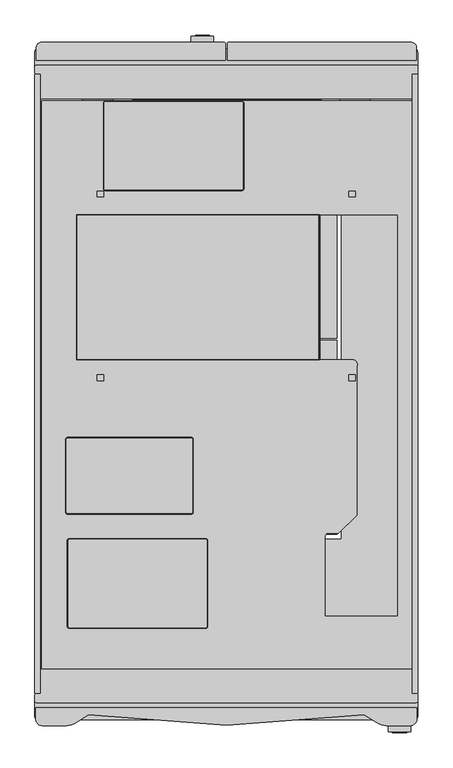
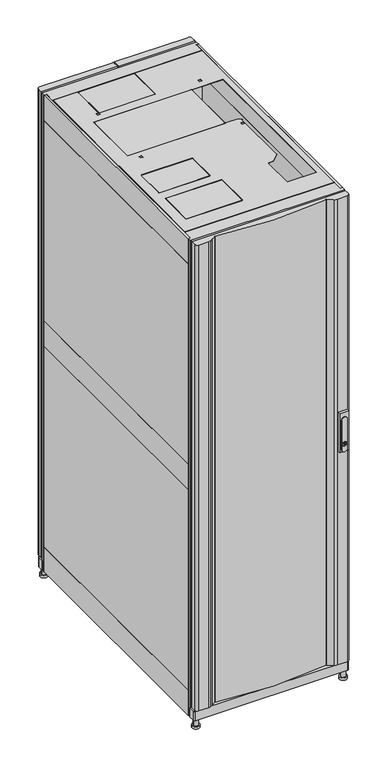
"""IFC4 building model written with IfcOpenShell, lengths in millimetres: proxy geometry, Modular_PDU_100kW_600_480_208V_MBP_w_XFMR_Schneider_Electric_BIM_Model : PDPM100G6F-M 100kVA Modular Power Distribution Unit, Isolation Transformer, 480-208V, 72 Pole, MBP, 1 Subfeed."""

from ifc_helpers import new_model, si_unit, point, frame, frame_2d, origin, place, context, project, spatial, polyline, circle_curve, trimmed, segment, composite_curve, outline, extrude, source, transform, mapped, element, save
from ifc_brep_helpers import plane_surface, cylinder_surface, revolved_surface, advanced_brep


def electrical_equipment_63daee8f(model_context):
    return source(origin(), model_context, "Body", "SolidModel", [
        extrude(outline(composite_curve([segment(trimmed(circle_curve(frame_2d((964.9307811, -37.2036024)), 11.2467677), [point((964.9307811, -48.4503701))], [point((964.9307811, -25.9568348))], False, "CARTESIAN"), True, "CONTINUOUS"), segment(polyline([(964.9307811, -25.9568348), (1084.9307811, -25.9568348)]), True, "CONTINUOUS"), segment(trimmed(circle_curve(frame_2d((1084.9307811, -37.2036024)), 11.2467677), [point((1084.9307811, -25.9568348))], [point((1084.9307811, -48.4503701))], False, "CARTESIAN"), True, "CONTINUOUS"), segment(polyline([(1084.9307811, -48.4503701), (964.9307811, -48.4503701)]), True, "CONTINUOUS")], self_intersect=False), holes=[composite_curve([segment(trimmed(circle_curve(frame_2d((986.1512302, -37.182098)), 8.4681222), [point((989.1931123, -45.0850119))], [point((989.1931123, -29.2791842))], True, "CARTESIAN"), True, "CONTINUOUS"), segment(trimmed(circle_curve(frame_2d((986.1512302, -37.182098)), 8.4681222), [point((989.1931123, -29.2791842))], [point((983.109348, -29.2791842))], True, "CARTESIAN"), True, "CONTINUOUS"), segment(trimmed(circle_curve(frame_2d((986.1512302, -37.182098)), 8.4681222), [point((983.109348, -29.2791842))], [point((983.109348, -45.0850119))], True, "CARTESIAN"), True, "CONTINUOUS"), segment(trimmed(circle_curve(frame_2d((986.1512302, -37.182098)), 8.4681222), [point((983.109348, -45.0850119))], [point((989.1931123, -45.0850119))], True, "CARTESIAN"), True, "CONTINUOUS")], self_intersect=False)]), frame((0.0, 544.5, 0.0), z_axis=(0.0, 1.0, 0.0), x_axis=(0.0, 0.0, 1.0)), (0.0, 0.0, 1.0), 2.0),
        extrude(outline(composite_curve([segment(polyline([(988.2152956, -45.0850119), (984.0871648, -45.0850119)]), True, "CONTINUOUS"), segment(trimmed(circle_curve(frame_2d((986.1512302, -37.182098)), 8.1680116), [point((984.0871648, -45.0850119))], [point((984.0871648, -29.2791842))], False, "CARTESIAN"), True, "CONTINUOUS"), segment(polyline([(984.0871648, -29.2791842), (988.2152956, -29.2791842)]), True, "CONTINUOUS"), segment(trimmed(circle_curve(frame_2d((986.1512302, -37.182098)), 8.1680116), [point((988.2152956, -29.2791842))], [point((988.2152956, -45.0850119))], False, "CARTESIAN"), True, "CONTINUOUS")], self_intersect=False), holes=[polyline([(981.6145575, -37.182098), (993.3188729, -37.182098), (993.3188729, -34.7812128), (981.6145575, -34.7812128), (981.6145575, -37.182098)])]), frame((0.0, 544.5, 0.0), z_axis=(0.0, 1.0, 0.0), x_axis=(0.0, 0.0, 1.0)), (0.0, 0.0, 1.0), 2.0),
        extrude(outline(polyline([(-36.882098, 546.5), (-35.0812128, 546.5), (-35.0812128, 544.5), (-36.882098, 544.5), (-36.882098, 546.5)])), frame((0.0, 0.0, 981.9145575), z_axis=(0.0, 0.0, 1.0), x_axis=(1.0, 0.0, 0.0)), (0.0, 0.0, 1.0), 11.1043154),
        extrude(outline(polyline([(-55.0136709, 544.5), (-20.2236766, 544.5), (-20.2236766, 535.0), (-55.0136709, 535.0), (-55.0136709, 544.5)])), frame((0.0, 0.0, 955.0100058), z_axis=(0.0, 0.0, 1.0), x_axis=(1.0, 0.0, 0.0)), (0.0, 0.0, 1.0), 159.9999908),
        extrude(outline(polyline([(300.0, 484.7389449), (300.0, -484.3030002), (292.0, -484.3030002), (292.0, 484.7389449), (300.0, 484.7389449)])), frame((0.0, 0.0, 1888.946775), z_axis=(0.0, 0.0, 1.0), x_axis=(1.0, 0.0, 0.0)), (0.0, 0.0, 1.0), 101.9999981),
        extrude(outline(polyline([(483.8199605, 1065.7405589), (-483.7220002, 1065.7405589), (-483.7220002, 1887.9547749), (483.8199605, 1887.9547749), (483.8199605, 1065.7405589)]), holes=[polyline([(337.786, 1587.14523), (337.786, 1101.67323), (340.314, 1099.14523), (442.786, 1099.14523), (445.314, 1101.67323), (445.314, 1587.14523), (442.786, 1589.67323), (340.314, 1589.67323), (337.786, 1587.14523)])]), frame((292.0, 0.0, 0.0), z_axis=(1.0, 0.0, 0.0), x_axis=(0.0, 1.0, 0.0)), (0.0, 0.0, 1.0), 8.0),
        extrude(outline(polyline([(300.0, 484.7389449), (300.0, -484.3030002), (292.0, -484.3030002), (292.0, 484.7389449), (300.0, 484.7389449)])), frame((0.0, 0.0, 962.4467451), z_axis=(0.0, 0.0, 1.0), x_axis=(1.0, 0.0, 0.0)), (0.0, 0.0, 1.0), 102.0000055),
        extrude(outline(polyline([(483.8199605, 139.2405663), (-483.7220002, 139.2405663), (-483.7220002, 961.4547487), (483.8199605, 961.4547487), (483.8199605, 139.2405663)]), holes=[polyline([(337.786, 176.4632301), (340.314, 173.9352301), (442.786, 173.9352301), (445.314, 176.4632301), (445.314, 661.9352301), (442.786, 664.4632301), (340.314, 664.4632301), (337.786, 661.9352301), (337.786, 176.4632301)])]), frame((292.0, 0.0, 0.0), z_axis=(1.0, 0.0, 0.0), x_axis=(0.0, 1.0, 0.0)), (0.0, 0.0, 1.0), 8.0),
        extrude(outline(polyline([(300.0, 484.7389449), (300.0, -484.3030002), (292.0, -484.3030002), (292.0, 484.7389449), (300.0, 484.7389449)])), frame((0.0, 0.0, 35.9467301), z_axis=(0.0, 0.0, 1.0), x_axis=(1.0, 0.0, 0.0)), (0.0, 0.0, 1.0), 101.9999981),
        extrude(outline(composite_curve([segment(trimmed(circle_curve(frame_2d((965.0100104, 272.0137961)), 11.2467677), [point((965.0100104, 260.7670285))], [point((965.0100104, 283.2605638))], False, "CARTESIAN"), True, "CONTINUOUS"), segment(polyline([(965.0100104, 283.2605638), (1085.0100104, 283.2605638)]), True, "CONTINUOUS"), segment(trimmed(circle_curve(frame_2d((1085.0100104, 272.0137961)), 11.2467677), [point((1085.0100104, 283.2605638))], [point((1085.0100104, 260.7670285))], False, "CARTESIAN"), True, "CONTINUOUS"), segment(polyline([(1085.0100104, 260.7670285), (965.0100104, 260.7670285)]), True, "CONTINUOUS")], self_intersect=False), holes=[composite_curve([segment(trimmed(circle_curve(frame_2d((986.2304594, 272.0353005)), 8.4681222), [point((989.2723415, 264.1323867))], [point((989.2723415, 279.9382143))], True, "CARTESIAN"), True, "CONTINUOUS"), segment(trimmed(circle_curve(frame_2d((986.2304594, 272.0353005)), 8.4681222), [point((989.2723415, 279.9382143))], [point((983.1885772, 279.9382143))], True, "CARTESIAN"), True, "CONTINUOUS"), segment(trimmed(circle_curve(frame_2d((986.2304594, 272.0353005)), 8.4681222), [point((983.1885772, 279.9382143))], [point((983.1885772, 264.1323867))], True, "CARTESIAN"), True, "CONTINUOUS"), segment(trimmed(circle_curve(frame_2d((986.2304594, 272.0353005)), 8.4681222), [point((983.1885772, 264.1323867))], [point((989.2723415, 264.1323867))], True, "CARTESIAN"), True, "CONTINUOUS")], self_intersect=False)]), frame((0.0, -546.5, 0.0), z_axis=(0.0, 1.0, 0.0), x_axis=(0.0, 0.0, 1.0)), (0.0, 0.0, 1.0), 2.0),
        extrude(outline(composite_curve([segment(polyline([(988.2945248, 264.1323867), (984.166394, 264.1323867)]), True, "CONTINUOUS"), segment(trimmed(circle_curve(frame_2d((986.2304594, 272.0353005)), 8.1680116), [point((984.166394, 264.1323867))], [point((984.166394, 279.9382143))], False, "CARTESIAN"), True, "CONTINUOUS"), segment(polyline([(984.166394, 279.9382143), (988.2945248, 279.9382143)]), True, "CONTINUOUS"), segment(trimmed(circle_curve(frame_2d((986.2304594, 272.0353005)), 8.1680116), [point((988.2945248, 279.9382143))], [point((988.2945248, 264.1323867))], False, "CARTESIAN"), True, "CONTINUOUS")], self_intersect=False), holes=[polyline([(981.6937867, 272.0353005), (993.3981021, 272.0353005), (993.3981021, 274.4361857), (981.6937867, 274.4361857), (981.6937867, 272.0353005)])]), frame((0.0, -546.5, 0.0), z_axis=(0.0, 1.0, 0.0), x_axis=(0.0, 0.0, 1.0)), (0.0, 0.0, 1.0), 2.0),
        extrude(outline(polyline([(274.1361857, -546.5), (272.3353005, -546.5), (272.3353005, -544.5), (274.1361857, -544.5), (274.1361857, -546.5)])), frame((0.0, 0.0, 981.9937867), z_axis=(0.0, 0.0, 1.0), x_axis=(1.0, 0.0, 0.0)), (0.0, 0.0, 1.0), 11.1043154),
        extrude(outline(polyline([(289.0270248, -544.5), (254.2370304, -544.5), (254.2370304, -535.0), (289.0270248, -535.0), (289.0270248, -544.5)])), frame((0.0, 0.0, 955.0100058), z_axis=(0.0, 0.0, 1.0), x_axis=(1.0, 0.0, 0.0)), (0.0, 0.0, 1.0), 159.9999908),
        extrude(outline(polyline([(-292.0, 484.7389449), (-292.0, -484.3030002), (-300.0, -484.3030002), (-300.0, 484.7389449), (-292.0, 484.7389449)])), frame((0.0, 0.0, 1888.946775), z_axis=(0.0, 0.0, 1.0), x_axis=(1.0, 0.0, 0.0)), (0.0, 0.0, 1.0), 101.9999981),
        extrude(outline(polyline([(-292.0, 483.8199605), (-292.0, -483.7220002), (-300.0, -483.7220002), (-300.0, 483.8199605), (-292.0, 483.8199605)])), frame((0.0, 0.0, 1065.7405589), z_axis=(0.0, 0.0, 1.0), x_axis=(1.0, 0.0, 0.0)), (0.0, 0.0, 1.0), 822.214216),
        extrude(outline(polyline([(-292.0, 484.7389449), (-292.0, -484.3030002), (-300.0, -484.3030002), (-300.0, 484.7389449), (-292.0, 484.7389449)])), frame((0.0, 0.0, 962.4467451), z_axis=(0.0, 0.0, 1.0), x_axis=(1.0, 0.0, 0.0)), (0.0, 0.0, 1.0), 102.0000055),
        extrude(outline(polyline([(-292.0, 483.8199605), (-292.0, -483.7220002), (-300.0, -483.7220002), (-300.0, 483.8199605), (-292.0, 483.8199605)])), frame((0.0, 0.0, 139.2405663), z_axis=(0.0, 0.0, 1.0), x_axis=(1.0, 0.0, 0.0)), (0.0, 0.0, 1.0), 822.2141825),
        extrude(outline(polyline([(-292.0, 484.7389449), (-292.0, -484.3030002), (-300.0, -484.3030002), (-300.0, 484.7389449), (-292.0, 484.7389449)])), frame((0.0, 0.0, 35.9467301), z_axis=(0.0, 0.0, 1.0), x_axis=(1.0, 0.0, 0.0)), (0.0, 0.0, 1.0), 101.9999981),
        extrude(outline(composite_curve([segment(polyline([(295.0, -525.858838), (-295.0, -525.858838)]), True, "CONTINUOUS"), segment(trimmed(circle_curve(frame_2d((-295.0, -520.858838)), 5.0), [point((-295.0, -525.858838))], [point((-300.0, -520.858838))], False, "CARTESIAN"), True, "CONTINUOUS"), segment(polyline([(-300.0, -520.858838), (-300.0, -497.6556519), (300.0, -497.6556519), (300.0, -520.858838)]), True, "CONTINUOUS"), segment(trimmed(circle_curve(frame_2d((295.0, -520.858838)), 5.0), [point((300.0, -520.858838))], [point((295.0, -525.858838))], False, "CARTESIAN"), True, "CONTINUOUS")], self_intersect=False)), frame((0.0, 0.0, 36.3), z_axis=(0.0, 0.0, 1.0), x_axis=(1.0, 0.0, 0.0)), (0.0, 0.0, 1.0), 38.1),
        extrude(outline(composite_curve([segment(trimmed(circle_curve(frame_2d((295.0, 519.921338)), 5.0), [point((295.0, 524.921338))], [point((300.0, 519.921338))], False, "CARTESIAN"), True, "CONTINUOUS"), segment(polyline([(300.0, 519.921338), (300.0, 496.7181519), (-300.0, 496.7181519), (-300.0, 519.921338)]), True, "CONTINUOUS"), segment(trimmed(circle_curve(frame_2d((-295.0, 519.921338)), 5.0), [point((-300.0, 519.921338))], [point((-295.0, 524.921338))], False, "CARTESIAN"), True, "CONTINUOUS"), segment(polyline([(-295.0, 524.921338), (295.0, 524.921338)]), True, "CONTINUOUS")], self_intersect=False)), frame((0.0, 0.0, 36.3), z_axis=(0.0, 0.0, 1.0), x_axis=(1.0, 0.0, 0.0)), (0.0, 0.0, 1.0), 38.1),
        advanced_brep(
        [(295.0884724, 510.7969997, 40.0), (276.9884724, 510.7969997, 40.0), (276.9884724, 510.7969997, 10.0), (295.0884724, 510.7969997, 10.0), (271.9800276, 510.7969997, 10.0), (299.9800276, 510.7969997, 10.0), (271.9800276, 510.7969997, 0.0), (299.9800276, 510.7969997, 0.0)],
        [
            (0, 1, circle_curve(frame((286.0384724, 510.7969997, 40.0), z_axis=(0.0, 0.0, 1.0), x_axis=(-1.0, 0.0, 0.0)), 9.05)),
            (1, 0, circle_curve(frame((286.0384724, 510.7969997, 40.0), z_axis=(0.0, 0.0, 1.0), x_axis=(-1.0, 0.0, 0.0)), 9.05)),
            (1, 2),
            (2, 3, circle_curve(frame((286.0384724, 510.7969997, 10.0), z_axis=(0.0, 0.0, 1.0), x_axis=(-1.0, 0.0, 0.0)), 9.05)),
            (3, 0),
            (3, 2, circle_curve(frame((286.0384724, 510.7969997, 10.0), z_axis=(0.0, 0.0, 1.0), x_axis=(-1.0, 0.0, 0.0)), 9.05)),
            (4, 5, circle_curve(frame((285.9800276, 510.7969997, 10.0), z_axis=(0.0, 0.0, 1.0), x_axis=(1.0, 0.0, 0.0)), 14.0)),
            (5, 4, circle_curve(frame((285.9800276, 510.7969997, 10.0), z_axis=(0.0, 0.0, 1.0), x_axis=(1.0, 0.0, 0.0)), 14.0)),
            (6, 7, circle_curve(frame((285.9800276, 510.7969997, 0.0), z_axis=(0.0, 0.0, -1.0), x_axis=(1.0, 0.0, 0.0)), 14.0)),
            (7, 6, circle_curve(frame((285.9800276, 510.7969997, 0.0), z_axis=(0.0, 0.0, -1.0), x_axis=(1.0, 0.0, 0.0)), 14.0)),
            (4, 6),
            (7, 5),
        ],
        [
            plane_surface(frame((276.9884724, 510.7969997, 40.0), z_axis=(0.0, 0.0, 1.0), x_axis=(0.0, -1.0, 0.0))),
            cylinder_surface(frame((286.0384724, 510.7969997, 10.0), z_axis=(0.0, 0.0, 1.0), x_axis=(-1.0, 0.0, 0.0)), 9.05),
            plane_surface(frame((299.9800276, 510.7969997, 10.0), z_axis=(0.0, 0.0, 1.0), x_axis=(0.0, 1.0, 0.0))),
            plane_surface(frame((299.9800276, 510.7969997, 0.0), z_axis=(0.0, 0.0, -1.0), x_axis=(0.0, -1.0, 0.0))),
            cylinder_surface(frame((285.9800276, 510.7969997, 0.0), z_axis=(0.0, 0.0, 1.0), x_axis=(1.0, 0.0, 0.0)), 14.0),
        ],
        [
            (0, [[1, 2]]),
            (1, [[-2, 3, 4, 5]]),
            (1, [[-1, -5, 6, -3]]),
            (2, [[7, 8], [-4, -6]]),
            (3, [[9, 10]]),
            (4, [[-7, 11, -10, 12]]),
            (4, [[-8, -12, -9, -11]]),
        ],
    ),
        advanced_brep(
        [(295.0884724, -511.9030003, 40.0), (276.9884724, -511.9030003, 40.0), (276.9884724, -511.9030003, 10.0), (295.0884724, -511.9030003, 10.0), (271.9800276, -511.9030003, 10.0), (299.9800276, -511.9030003, 10.0), (271.9800276, -511.9030003, 0.0), (299.9800276, -511.9030003, 0.0)],
        [
            (0, 1, circle_curve(frame((286.0384724, -511.9030003, 40.0), z_axis=(0.0, 0.0, 1.0), x_axis=(-1.0, 0.0, 0.0)), 9.05)),
            (1, 0, circle_curve(frame((286.0384724, -511.9030003, 40.0), z_axis=(0.0, 0.0, 1.0), x_axis=(-1.0, 0.0, 0.0)), 9.05)),
            (1, 2),
            (2, 3, circle_curve(frame((286.0384724, -511.9030003, 10.0), z_axis=(0.0, 0.0, 1.0), x_axis=(-1.0, 0.0, 0.0)), 9.05)),
            (3, 0),
            (3, 2, circle_curve(frame((286.0384724, -511.9030003, 10.0), z_axis=(0.0, 0.0, 1.0), x_axis=(-1.0, 0.0, 0.0)), 9.05)),
            (4, 5, circle_curve(frame((285.9800276, -511.9030003, 10.0), z_axis=(0.0, 0.0, 1.0), x_axis=(1.0, 0.0, 0.0)), 14.0)),
            (5, 4, circle_curve(frame((285.9800276, -511.9030003, 10.0), z_axis=(0.0, 0.0, 1.0), x_axis=(1.0, 0.0, 0.0)), 14.0)),
            (6, 7, circle_curve(frame((285.9800276, -511.9030003, 0.0), z_axis=(0.0, 0.0, -1.0), x_axis=(1.0, 0.0, 0.0)), 14.0)),
            (7, 6, circle_curve(frame((285.9800276, -511.9030003, 0.0), z_axis=(0.0, 0.0, -1.0), x_axis=(1.0, 0.0, 0.0)), 14.0)),
            (4, 6),
            (7, 5),
        ],
        [
            plane_surface(frame((276.9884724, 510.7969997, 40.0), z_axis=(0.0, 0.0, 1.0), x_axis=(0.0, -1.0, 0.0))),
            cylinder_surface(frame((286.0384724, -511.9030003, 0.0), z_axis=(0.0, 0.0, 1.0), x_axis=(-1.0, 0.0, 0.0)), 9.05),
            plane_surface(frame((299.9800276, 510.7969997, 10.0), z_axis=(0.0, 0.0, 1.0), x_axis=(0.0, 1.0, 0.0))),
            plane_surface(frame((299.9800276, 510.7969997, 0.0), z_axis=(0.0, 0.0, -1.0), x_axis=(0.0, -1.0, 0.0))),
            cylinder_surface(frame((285.9800276, -511.9030003, 0.0), z_axis=(0.0, 0.0, 1.0), x_axis=(1.0, 0.0, 0.0)), 14.0),
        ],
        [
            (0, [[1, 2]]),
            (1, [[-2, 3, 4, 5]]),
            (1, [[-1, -5, 6, -3]]),
            (2, [[7, 8], [-4, -6]]),
            (3, [[9, 10]]),
            (4, [[-7, 11, -10, 12]]),
            (4, [[-8, -12, -9, -11]]),
        ],
    ),
        extrude(outline(polyline([(-289.9249756, -416.0459999), (-289.9249756, 414.9399709), (-146.8398751, 414.9399709), (-146.8398751, 444.9399709), (148.1601249, 444.9399709), (148.1601249, 414.9399709), (290.3410287, 414.9399709), (290.3410287, -416.0459999), (147.8889915, -416.0459999), (147.8889915, -446.0459999), (-147.1110085, -446.0459999), (-147.1110085, -416.0459999), (-289.9249756, -416.0459999)]), holes=[polyline([(180.0, 382.5), (-170.0, 382.5), (-170.0, 375.0), (-170.0, -235.0), (-170.0, -242.5), (180.0, -242.5), (180.0, -235.0), (180.0, 375.0), (180.0, 382.5)])]), frame((0.0, 0.0, 73.0), z_axis=(0.0, 0.0, 1.0), x_axis=(1.0, 0.0, 0.0)), (0.0, 0.0, 1.0), 3.0),
        extrude(outline(polyline([(173.589, 71.5), (-163.589, 71.5), (-163.589, 375.0), (173.589, 375.0), (173.589, 71.5)])), frame((0.0, 0.0, 73.0), z_axis=(0.0, 0.0, 1.0), x_axis=(1.0, 0.0, 0.0)), (0.0, 0.0, 1.0), 3.0),
        extrude(outline(polyline([(173.589, 68.5), (173.589, -235.0), (-163.589, -235.0), (-163.589, 68.5), (173.589, 68.5)])), frame((0.0, 0.0, 73.0), z_axis=(0.0, 0.0, 1.0), x_axis=(1.0, 0.0, 0.0)), (0.0, 0.0, 1.0), 3.0),
        advanced_brep(
        [(-299.7259724, -511.9030003, 10.0), (-271.7259724, -511.9030003, 10.0), (-276.6759724, -511.9030003, 10.0), (-294.7759724, -511.9030003, 10.0), (-299.7259724, -511.9030003, 0.0), (-271.7259724, -511.9030003, 0.0), (-294.7759724, -511.9030003, 40.0), (-276.6759724, -511.9030003, 40.0)],
        [
            (0, 1, circle_curve(frame((-285.7259724, -511.9030003, 10.0), z_axis=(0.0, 0.0, 1.0), x_axis=(1.0, 0.0, 0.0)), 14.0)),
            (1, 0, circle_curve(frame((-285.7259724, -511.9030003, 10.0), z_axis=(0.0, 0.0, 1.0), x_axis=(1.0, 0.0, 0.0)), 14.0)),
            (2, 3, circle_curve(frame((-285.7259724, -511.9030003, 10.0), z_axis=(0.0, 0.0, -1.0), x_axis=(1.0, 0.0, 0.0)), 9.05)),
            (3, 2, circle_curve(frame((-285.7259724, -511.9030003, 10.0), z_axis=(0.0, 0.0, -1.0), x_axis=(1.0, 0.0, 0.0)), 9.05)),
            (4, 5, circle_curve(frame((-285.7259724, -511.9030003, 0.0), z_axis=(0.0, 0.0, -1.0), x_axis=(1.0, 0.0, 0.0)), 14.0)),
            (5, 4, circle_curve(frame((-285.7259724, -511.9030003, 0.0), z_axis=(0.0, 0.0, -1.0), x_axis=(1.0, 0.0, 0.0)), 14.0)),
            (0, 4),
            (5, 1),
            (6, 7, circle_curve(frame((-285.7259724, -511.9030003, 40.0), z_axis=(0.0, 0.0, 1.0), x_axis=(1.0, 0.0, 0.0)), 9.05)),
            (7, 6, circle_curve(frame((-285.7259724, -511.9030003, 40.0), z_axis=(0.0, 0.0, 1.0), x_axis=(1.0, 0.0, 0.0)), 9.05)),
            (6, 3),
            (2, 7),
        ],
        [
            plane_surface(frame((-271.7259724, -511.9030003, 10.0), z_axis=(0.0, 0.0, 1.0), x_axis=(0.0, 1.0, 0.0))),
            plane_surface(frame((-271.7259724, -511.9030003, 0.0), z_axis=(0.0, 0.0, -1.0), x_axis=(0.0, -1.0, 0.0))),
            cylinder_surface(frame((-285.7259724, -511.9030003, 0.0), z_axis=(0.0, 0.0, 1.0), x_axis=(1.0, 0.0, 0.0)), 14.0),
            plane_surface(frame((-276.6759724, 510.7969997, 40.0), z_axis=(0.0, 0.0, 1.0), x_axis=(0.0, 1.0, 0.0))),
            cylinder_surface(frame((-285.7259724, -511.9030003, 0.0), z_axis=(0.0, 0.0, 1.0), x_axis=(1.0, 0.0, 0.0)), 9.05),
        ],
        [
            (0, [[1, 2], [3, 4]]),
            (1, [[5, 6]]),
            (2, [[-1, 7, -6, 8]]),
            (2, [[-2, -8, -5, -7]]),
            (3, [[9, 10]]),
            (4, [[-9, 11, -3, 12]]),
            (4, [[-10, -12, -4, -11]]),
        ],
    ),
        advanced_brep(
        [(-299.7259724, 510.7969997, 10.0), (-271.7259724, 510.7969997, 10.0), (-276.6759724, 510.7969997, 10.0), (-294.7759724, 510.7969997, 10.0), (-299.7259724, 510.7969997, 0.0), (-271.7259724, 510.7969997, 0.0), (-294.7759724, 510.7969997, 40.0), (-276.6759724, 510.7969997, 40.0)],
        [
            (0, 1, circle_curve(frame((-285.7259724, 510.7969997, 10.0), z_axis=(0.0, 0.0, 1.0), x_axis=(1.0, 0.0, 0.0)), 14.0)),
            (1, 0, circle_curve(frame((-285.7259724, 510.7969997, 10.0), z_axis=(0.0, 0.0, 1.0), x_axis=(1.0, 0.0, 0.0)), 14.0)),
            (2, 3, circle_curve(frame((-285.7259724, 510.7969997, 10.0), z_axis=(0.0, 0.0, -1.0), x_axis=(1.0, 0.0, 0.0)), 9.05)),
            (3, 2, circle_curve(frame((-285.7259724, 510.7969997, 10.0), z_axis=(0.0, 0.0, -1.0), x_axis=(1.0, 0.0, 0.0)), 9.05)),
            (4, 5, circle_curve(frame((-285.7259724, 510.7969997, 0.0), z_axis=(0.0, 0.0, -1.0), x_axis=(1.0, 0.0, 0.0)), 14.0)),
            (5, 4, circle_curve(frame((-285.7259724, 510.7969997, 0.0), z_axis=(0.0, 0.0, -1.0), x_axis=(1.0, 0.0, 0.0)), 14.0)),
            (0, 4),
            (5, 1),
            (6, 7, circle_curve(frame((-285.7259724, 510.7969997, 40.0), z_axis=(0.0, 0.0, 1.0), x_axis=(1.0, 0.0, 0.0)), 9.05)),
            (7, 6, circle_curve(frame((-285.7259724, 510.7969997, 40.0), z_axis=(0.0, 0.0, 1.0), x_axis=(1.0, 0.0, 0.0)), 9.05)),
            (6, 3),
            (2, 7),
        ],
        [
            plane_surface(frame((-271.7259724, -511.9030003, 10.0), z_axis=(0.0, 0.0, 1.0), x_axis=(0.0, 1.0, 0.0))),
            plane_surface(frame((-271.7259724, -511.9030003, 0.0), z_axis=(0.0, 0.0, -1.0), x_axis=(0.0, -1.0, 0.0))),
            cylinder_surface(frame((-285.7259724, 510.7969997, 0.0), z_axis=(0.0, 0.0, 1.0), x_axis=(1.0, 0.0, 0.0)), 14.0),
            plane_surface(frame((-276.6759724, 510.7969997, 40.0), z_axis=(0.0, 0.0, 1.0), x_axis=(0.0, 1.0, 0.0))),
            cylinder_surface(frame((-285.7259724, 510.7969997, 10.0), z_axis=(0.0, 0.0, 1.0), x_axis=(1.0, 0.0, 0.0)), 9.05),
        ],
        [
            (0, [[1, 2], [3, 4]]),
            (1, [[5, 6]]),
            (2, [[-1, 7, -6, 8]]),
            (2, [[-2, -8, -5, -7]]),
            (3, [[9, 10]]),
            (4, [[-9, 11, -3, 12]]),
            (4, [[-10, -12, -4, -11]]),
        ],
    ),
        extrude(outline(composite_curve([segment(trimmed(circle_curve(frame_2d((-460.0797469, 31.0)), 31.0), [point((-491.0797469, 31.0))], [point((-429.0797469, 31.0))], False, "CARTESIAN"), True, "CONTINUOUS"), segment(trimmed(circle_curve(frame_2d((-460.0797469, 31.0)), 31.0), [point((-429.0797469, 31.0))], [point((-491.0797469, 31.0))], False, "CARTESIAN"), True, "CONTINUOUS")], self_intersect=False)), frame((178.0, 0.0, 0.0), z_axis=(1.0, 0.0, 0.0), x_axis=(0.0, 1.0, 0.0)), (0.0, 0.0, 1.0), 47.0),
        extrude(outline(composite_curve([segment(trimmed(circle_curve(frame_2d((456.1065435, 31.0)), 31.0), [point((425.1065435, 31.0))], [point((487.1065435, 31.0))], False, "CARTESIAN"), True, "CONTINUOUS"), segment(trimmed(circle_curve(frame_2d((456.1065435, 31.0)), 31.0), [point((487.1065435, 31.0))], [point((425.1065435, 31.0))], False, "CARTESIAN"), True, "CONTINUOUS")], self_intersect=False)), frame((178.0, 0.0, 0.0), z_axis=(1.0, 0.0, 0.0), x_axis=(0.0, 1.0, 0.0)), (0.0, 0.0, 1.0), 47.0),
        extrude(outline(composite_curve([segment(trimmed(circle_curve(frame_2d((297.7190436, 496.7139543)), 2.4079842), [point((297.7190437, 499.1219386))], [point((300.1270278, 496.7139541))], False, "CARTESIAN"), True, "CONTINUOUS"), segment(polyline([(300.1270278, 496.7139541), (300.1270278, 486.9109379)]), True, "CONTINUOUS"), segment(trimmed(circle_curve(frame_2d((297.7190273, 486.9109379)), 2.4080005), [point((300.1270278, 486.9109379))], [point((297.7190273, 484.5029374))], False, "CARTESIAN"), True, "CONTINUOUS"), segment(polyline([(297.7190273, 484.5029374), (290.8795297, 484.5029374), (290.8795297, 446.5903878), (-290.6255007, 446.5903878), (-290.6255007, 484.5029365), (-297.4649733, 484.5029365)]), True, "CONTINUOUS"), segment(trimmed(circle_curve(frame_2d((-297.4649742, 486.9109387)), 2.4080021), [point((-297.4649733, 484.5029365))], [point((-299.8729763, 486.9109382))], False, "CARTESIAN"), True, "CONTINUOUS"), segment(polyline([(-299.8729763, 486.9109382), (-299.8729763, 496.7139374)]), True, "CONTINUOUS"), segment(trimmed(circle_curve(frame_2d((-297.4649722, 496.7139344)), 2.4080041), [point((-299.8729763, 496.7139374))], [point((-297.4649711, 499.1219386))], False, "CARTESIAN"), True, "CONTINUOUS"), segment(polyline([(-297.4649711, 499.1219386), (297.7190437, 499.1219386)]), True, "CONTINUOUS")], self_intersect=False)), frame((0.0, 0.0, 36.3), z_axis=(0.0, 0.0, 1.0), x_axis=(1.0, 0.0, 0.0)), (0.0, 0.0, 1.0), 1954.7),
        extrude(outline(composite_curve([segment(polyline([(297.7190437, -499.122001), (-297.4649711, -499.122001)]), True, "CONTINUOUS"), segment(trimmed(circle_curve(frame_2d((-297.4649722, -496.7139968)), 2.4080041), [point((-297.4649711, -499.122001))], [point((-299.8729763, -496.7139998))], False, "CARTESIAN"), True, "CONTINUOUS"), segment(polyline([(-299.8729763, -496.7139998), (-299.8729763, -486.9110006)]), True, "CONTINUOUS"), segment(trimmed(circle_curve(frame_2d((-297.4649742, -486.9110011)), 2.4080021), [point((-299.8729763, -486.9110006))], [point((-297.4649733, -484.5029989))], False, "CARTESIAN"), True, "CONTINUOUS"), segment(polyline([(-297.4649733, -484.5029989), (-290.6255007, -484.5029989), (-290.6255007, -446.5904502), (290.8795297, -446.5904502), (290.8795297, -484.5029998), (297.7190273, -484.5029998)]), True, "CONTINUOUS"), segment(trimmed(circle_curve(frame_2d((297.7190273, -486.9110003)), 2.4080005), [point((297.7190273, -484.5029998))], [point((300.1270278, -486.9110003))], False, "CARTESIAN"), True, "CONTINUOUS"), segment(polyline([(300.1270278, -486.9110003), (300.1270278, -496.7140165)]), True, "CONTINUOUS"), segment(trimmed(circle_curve(frame_2d((297.7190436, -496.7140167)), 2.4079842), [point((300.1270278, -496.7140165))], [point((297.7190437, -499.122001))], False, "CARTESIAN"), True, "CONTINUOUS")], self_intersect=False)), frame((0.0, 0.0, 36.3), z_axis=(0.0, 0.0, 1.0), x_axis=(1.0, 0.0, 0.0)), (0.0, 0.0, 1.0), 1954.7),
        extrude(outline(polyline([(290.5825286, 443.349961), (290.5825286, -446.3030015), (-288.9999642, -446.3030015), (-288.9999642, 443.349961), (290.5825286, 443.349961)]), holes=[composite_curve([segment(trimmed(circle_curve(frame_2d((-246.15, -245.571)), 3.0), [point((-246.15, -242.571))], [point((-249.15, -245.571))], True, "CARTESIAN"), True, "CONTINUOUS"), segment(polyline([(-249.15, -245.571), (-249.15, -379.571)]), True, "CONTINUOUS"), segment(trimmed(circle_curve(frame_2d((-246.15, -379.571)), 3.0), [point((-249.15, -379.571))], [point((-246.15, -382.571))], True, "CARTESIAN"), True, "CONTINUOUS"), segment(polyline([(-246.15, -382.571), (-32.15, -382.571)]), True, "CONTINUOUS"), segment(trimmed(circle_curve(frame_2d((-32.15, -379.571)), 3.0), [point((-32.15, -382.571))], [point((-29.15, -379.571))], True, "CARTESIAN"), True, "CONTINUOUS"), segment(polyline([(-29.15, -379.571), (-29.15, -245.571)]), True, "CONTINUOUS"), segment(trimmed(circle_curve(frame_2d((-32.15, -245.571)), 3.0), [point((-29.15, -245.571))], [point((-32.15, -242.571))], True, "CARTESIAN"), True, "CONTINUOUS"), segment(polyline([(-32.15, -242.571), (-246.15, -242.571)]), True, "CONTINUOUS")], self_intersect=False), composite_curve([segment(trimmed(circle_curve(frame_2d((-54.65, -200.871)), 3.0), [point((-54.65, -203.871))], [point((-51.65, -200.871))], True, "CARTESIAN"), True, "CONTINUOUS"), segment(polyline([(-51.65, -200.871), (-51.65, -86.871)]), True, "CONTINUOUS"), segment(trimmed(circle_curve(frame_2d((-54.65, -86.871)), 3.0), [point((-51.65, -86.871))], [point((-54.65, -83.871))], True, "CARTESIAN"), True, "CONTINUOUS"), segment(polyline([(-54.65, -83.871), (-248.65, -83.871)]), True, "CONTINUOUS"), segment(trimmed(circle_curve(frame_2d((-248.65, -86.871)), 3.0), [point((-248.65, -83.871))], [point((-251.65, -86.871))], True, "CARTESIAN"), True, "CONTINUOUS"), segment(polyline([(-251.65, -86.871), (-251.65, -200.871)]), True, "CONTINUOUS"), segment(trimmed(circle_curve(frame_2d((-248.65, -200.871)), 3.0), [point((-251.65, -200.871))], [point((-248.65, -203.871))], True, "CARTESIAN"), True, "CONTINUOUS"), segment(polyline([(-248.65, -203.871), (-54.65, -203.871)]), True, "CONTINUOUS")], self_intersect=False), composite_curve([segment(trimmed(circle_curve(frame_2d((24.5, 305.629)), 3.0), [point((24.5, 302.629))], [point((27.5, 305.629))], True, "CARTESIAN"), True, "CONTINUOUS"), segment(polyline([(27.5, 305.629), (27.5, 439.629)]), True, "CONTINUOUS"), segment(trimmed(circle_curve(frame_2d((24.5, 439.629)), 3.0), [point((27.5, 439.629))], [point((24.5, 442.629))], True, "CARTESIAN"), True, "CONTINUOUS"), segment(polyline([(24.5, 442.629), (-189.5, 442.629)]), True, "CONTINUOUS"), segment(trimmed(circle_curve(frame_2d((-189.5, 439.629)), 3.0), [point((-189.5, 442.629))], [point((-192.5, 439.629))], True, "CARTESIAN"), True, "CONTINUOUS"), segment(polyline([(-192.5, 439.629), (-192.5, 305.629)]), True, "CONTINUOUS"), segment(trimmed(circle_curve(frame_2d((-189.5, 305.629)), 3.0), [point((-192.5, 305.629))], [point((-189.5, 302.629))], True, "CARTESIAN"), True, "CONTINUOUS"), segment(polyline([(-189.5, 302.629), (24.5, 302.629)]), True, "CONTINUOUS")], self_intersect=False), polyline([(-234.35, 264.8835947), (-234.35, 37.729), (145.86, 37.729), (145.86, 264.8835947), (-234.35, 264.8835947)]), composite_curve([segment(polyline([(267.914, 263.8835947), (147.6319728, 263.8835947), (147.6319728, 38.729), (196.65, 38.729)]), True, "CONTINUOUS"), segment(trimmed(circle_curve(frame_2d((196.65, 28.729)), 10.0), [point((196.65, 38.729))], [point((206.65, 28.729))], False, "CARTESIAN"), True, "CONTINUOUS"), segment(polyline([(206.65, 28.729), (205.386, 28.729), (205.386, -205.7474341), (176.1264341, -235.007), (157.914, -235.007), (155.386, -237.535), (155.386, -362.8085922), (267.914, -362.8085922), (267.914, 263.8835947)]), True, "CONTINUOUS")], self_intersect=False), polyline([(-202.5, 301.929), (-202.5, 292.929), (-192.5, 292.929), (-192.5, 301.929), (-202.5, 301.929)]), polyline([(192.5, 301.929), (192.5, 292.929), (202.5, 292.929), (202.5, 301.929), (192.5, 301.929)]), polyline([(192.5, 4.929), (202.5, 4.929), (202.5, 13.929), (192.5, 13.929), (192.5, 4.929)]), polyline([(-192.5, 13.929), (-202.5, 13.929), (-202.5, 4.929), (-192.5, 4.929), (-192.5, 13.929)])]), frame((0.0, 0.0, 1990.0), z_axis=(0.0, 0.0, 1.0), x_axis=(1.0, 0.0, 0.0)), (0.0, 0.0, 1.0), 1.0),
        extrude(outline(polyline([(144.86, 263.8835947), (144.86, 38.729), (-233.35, 38.729), (-233.35, 263.8835947), (144.86, 263.8835947)])), frame((0.0, 0.0, 1990.0), z_axis=(0.0, 0.0, 1.0), x_axis=(1.0, 0.0, 0.0)), (0.0, 0.0, 1.0), 1.0),
        extrude(outline(composite_curve([segment(polyline([(-191.5, 305.629), (-191.5, 439.629)]), True, "CONTINUOUS"), segment(trimmed(circle_curve(frame_2d((-189.5, 439.629)), 2.0), [point((-191.5, 439.629))], [point((-189.5, 441.629))], False, "CARTESIAN"), True, "CONTINUOUS"), segment(polyline([(-189.5, 441.629), (24.5, 441.629)]), True, "CONTINUOUS"), segment(trimmed(circle_curve(frame_2d((24.5, 439.629)), 2.0), [point((24.5, 441.629))], [point((26.5, 439.629))], False, "CARTESIAN"), True, "CONTINUOUS"), segment(polyline([(26.5, 439.629), (26.5, 305.629)]), True, "CONTINUOUS"), segment(trimmed(circle_curve(frame_2d((24.5, 305.629)), 2.0), [point((26.5, 305.629))], [point((24.5, 303.629))], False, "CARTESIAN"), True, "CONTINUOUS"), segment(polyline([(24.5, 303.629), (-189.5, 303.629)]), True, "CONTINUOUS"), segment(trimmed(circle_curve(frame_2d((-189.5, 305.629)), 2.0), [point((-189.5, 303.629))], [point((-191.5, 305.629))], False, "CARTESIAN"), True, "CONTINUOUS")], self_intersect=False)), frame((0.0, 0.0, 1990.0), z_axis=(0.0, 0.0, 1.0), x_axis=(1.0, 0.0, 0.0)), (0.0, 0.0, 1.0), 1.0),
        extrude(outline(composite_curve([segment(polyline([(-248.65, -84.871), (-54.65, -84.871)]), True, "CONTINUOUS"), segment(trimmed(circle_curve(frame_2d((-54.65, -86.871)), 2.0), [point((-54.65, -84.871))], [point((-52.65, -86.871))], False, "CARTESIAN"), True, "CONTINUOUS"), segment(polyline([(-52.65, -86.871), (-52.65, -200.871)]), True, "CONTINUOUS"), segment(trimmed(circle_curve(frame_2d((-54.65, -200.871)), 2.0), [point((-52.65, -200.871))], [point((-54.65, -202.871))], False, "CARTESIAN"), True, "CONTINUOUS"), segment(polyline([(-54.65, -202.871), (-248.65, -202.871)]), True, "CONTINUOUS"), segment(trimmed(circle_curve(frame_2d((-248.65, -200.871)), 2.0), [point((-248.65, -202.871))], [point((-250.65, -200.871))], False, "CARTESIAN"), True, "CONTINUOUS"), segment(polyline([(-250.65, -200.871), (-250.65, -86.871)]), True, "CONTINUOUS"), segment(trimmed(circle_curve(frame_2d((-248.65, -86.871)), 2.0), [point((-250.65, -86.871))], [point((-248.65, -84.871))], False, "CARTESIAN"), True, "CONTINUOUS")], self_intersect=False)), frame((0.0, 0.0, 1990.0), z_axis=(0.0, 0.0, 1.0), x_axis=(1.0, 0.0, 0.0)), (0.0, 0.0, 1.0), 1.0),
        extrude(outline(composite_curve([segment(polyline([(-246.15, -243.571), (-32.15, -243.571)]), True, "CONTINUOUS"), segment(trimmed(circle_curve(frame_2d((-32.15, -245.571)), 2.0), [point((-32.15, -243.571))], [point((-30.15, -245.571))], False, "CARTESIAN"), True, "CONTINUOUS"), segment(polyline([(-30.15, -245.571), (-30.15, -379.571)]), True, "CONTINUOUS"), segment(trimmed(circle_curve(frame_2d((-32.15, -379.571)), 2.0), [point((-30.15, -379.571))], [point((-32.15, -381.571))], False, "CARTESIAN"), True, "CONTINUOUS"), segment(polyline([(-32.15, -381.571), (-246.15, -381.571)]), True, "CONTINUOUS"), segment(trimmed(circle_curve(frame_2d((-246.15, -379.571)), 2.0), [point((-246.15, -381.571))], [point((-248.15, -379.571))], False, "CARTESIAN"), True, "CONTINUOUS"), segment(polyline([(-248.15, -379.571), (-248.15, -245.571)]), True, "CONTINUOUS"), segment(trimmed(circle_curve(frame_2d((-246.15, -245.571)), 2.0), [point((-248.15, -245.571))], [point((-246.15, -243.571))], False, "CARTESIAN"), True, "CONTINUOUS")], self_intersect=False)), frame((0.0, 0.0, 1990.0), z_axis=(0.0, 0.0, 1.0), x_axis=(1.0, 0.0, 0.0)), (0.0, 0.0, 1.0), 1.0),
        advanced_brep(
        [(298.6270294, -506.9500011, 1991.0), (-298.3669519, -506.9500011, 1991.0), (-298.3669519, -525.6943843, 1991.0), (-288.7729883, -535.0, 1991.0), (-250.3829777, -535.0, 1991.0), (-242.0373277, -533.6568848, 1991.0), (-232.149142, -528.5877079, 1991.0), (-217.3214294, -518.6957693, 1991.0), (-215.6132293, -518.342797, 1991.0), (215.8672846, -518.342797, 1991.0), (217.5754847, -518.6957693, 1991.0), (239.3544203, -532.4946008, 1991.0), (250.6364957, -535.0000003, 1991.0), (289.0270286, -535.0000003, 1991.0), (298.6270294, -525.4000001, 1991.0), (298.6270294, -506.9500011, 80.3), (298.6270294, -525.4000001, 80.3), (289.0270286, -535.0000003, 80.3), (250.6364957, -535.0000003, 80.3), (239.3544203, -532.4946008, 80.3), (217.5754845, -518.6957695, 80.3), (215.8672846, -518.342797, 80.3), (-215.6132293, -518.342797, 80.3), (-217.3214294, -518.6957693, 80.3), (-232.149142, -528.5877079, 80.3), (-242.0373277, -533.6568848, 80.3), (-250.3829777, -535.0, 80.3), (-288.7729883, -535.0, 80.3), (-298.3669519, -525.6943843, 80.3), (-298.3669519, -506.9500011, 80.3)],
        [
            (0, 1),
            (1, 2),
            (2, 3, circle_curve(frame((-288.7729883, -525.4015689, 1991.0), z_axis=(0.0, 0.0, 1.0), x_axis=(1.0, 0.0, 0.0)), 9.5984311)),
            (3, 4),
            (4, 5, circle_curve(frame((-250.1008714, -510.1528714, 1991.0), z_axis=(0.0, 0.0, 1.0), x_axis=(1.0, 0.0, 0.0)), 24.84873)),
            (5, 6, circle_curve(frame((-254.6682955, -496.8395194, 1991.0), z_axis=(0.0, 0.0, 1.0), x_axis=(1.0, 0.0, 0.0)), 38.9237684)),
            (6, 7, circle_curve(frame((-51.990788, -782.580443, 1991.0), z_axis=(0.0, 0.0, -1.0), x_axis=(1.0, 0.0, 0.0)), 311.3990078)),
            (7, 8, circle_curve(frame((-215.9926018, -520.8167145, 1991.0), z_axis=(0.0, 0.0, -1.0), x_axis=(1.0, 0.0, 0.0)), 2.5028366)),
            (8, 9, circle_curve(frame((0.1270279, 888.5161436, 1991.0), z_axis=(0.0, 0.0, 1.0), x_axis=(1.0, 0.0, 0.0)), 1423.3045834)),
            (9, 10, circle_curve(frame((216.2852436, -520.6299765, 1991.0), z_axis=(0.0, 0.0, -1.0), x_axis=(1.0, 0.0, 0.0)), 2.3250548)),
            (10, 11, circle_curve(frame((521.6509127, -62.8546774, 1991.0), z_axis=(0.0, 0.0, 1.0), x_axis=(1.0, 0.0, 0.0)), 547.9534354)),
            (11, 12, circle_curve(frame((250.651957, -508.2754956, 1991.0), z_axis=(0.0, 0.0, 1.0), x_axis=(1.0, 0.0, 0.0)), 26.7245092)),
            (12, 13),
            (13, 14, circle_curve(frame((289.0270291, -525.4000001, 1991.0), z_axis=(0.0, 0.0, 1.0), x_axis=(1.0, 0.0, 0.0)), 9.6000003)),
            (14, 0),
            (15, 16),
            (16, 17, circle_curve(frame((289.0270291, -525.4000001, 80.3), z_axis=(0.0, 0.0, -1.0), x_axis=(1.0, 0.0, 0.0)), 9.6000003)),
            (17, 18),
            (18, 19, circle_curve(frame((250.651957, -508.2754956, 80.3), z_axis=(0.0, 0.0, -1.0), x_axis=(1.0, 0.0, 0.0)), 26.7245092)),
            (19, 20, circle_curve(frame((521.6509127, -62.8546774, 80.3), z_axis=(0.0, 0.0, -1.0), x_axis=(1.0, 0.0, 0.0)), 547.9534354)),
            (20, 21, circle_curve(frame((216.2852436, -520.6299765, 80.3), z_axis=(0.0, 0.0, 1.0), x_axis=(1.0, 0.0, 0.0)), 2.3250548)),
            (21, 22, circle_curve(frame((0.1270279, 888.5161436, 80.3), z_axis=(0.0, 0.0, -1.0), x_axis=(1.0, 0.0, 0.0)), 1423.3045834)),
            (22, 23, circle_curve(frame((-215.9926018, -520.8167145, 80.3), z_axis=(0.0, 0.0, 1.0), x_axis=(1.0, 0.0, 0.0)), 2.5028366)),
            (23, 24, circle_curve(frame((-51.990788, -782.580443, 80.3), z_axis=(0.0, 0.0, 1.0), x_axis=(1.0, 0.0, 0.0)), 311.3990078)),
            (24, 25, circle_curve(frame((-254.6682955, -496.8395194, 80.3), z_axis=(0.0, 0.0, -1.0), x_axis=(1.0, 0.0, 0.0)), 38.9237684)),
            (25, 26, circle_curve(frame((-250.1008714, -510.1528714, 80.3), z_axis=(0.0, 0.0, -1.0), x_axis=(1.0, 0.0, 0.0)), 24.84873)),
            (26, 27),
            (27, 28, circle_curve(frame((-288.7729883, -525.4015689, 80.3), z_axis=(0.0, 0.0, -1.0), x_axis=(1.0, 0.0, 0.0)), 9.5984311)),
            (28, 29),
            (29, 15),
            (0, 15),
            (29, 1),
            (28, 2),
            (27, 3),
            (26, 4),
            (25, 5),
            (24, 6),
            (23, 7),
            (22, 8),
            (21, 9),
            (20, 10),
            (19, 11),
            (18, 12),
            (17, 13),
            (16, 14),
        ],
        [
            plane_surface(frame((-298.3669519, -506.9500011, 1991.0), z_axis=(0.0, 0.0, 1.0), x_axis=(-1.0, 0.0, 0.0))),
            plane_surface(frame((-298.3669519, -506.9500011, 80.3), z_axis=(0.0, 0.0, -1.0), x_axis=(1.0, 0.0, 0.0))),
            plane_surface(frame((298.6270294, -506.9500011, 1991.0), z_axis=(0.0, 1.0, 0.0), x_axis=(0.0, 0.0, -1.0))),
            plane_surface(frame((-298.3669519, -506.9500011, 1991.0), z_axis=(-1.0, 0.0, 0.0), x_axis=(0.0, 0.0, -1.0))),
            cylinder_surface(frame((-288.7729883, -525.4015689, 80.3), z_axis=(0.0, 0.0, 1.0), x_axis=(1.0, 0.0, 0.0)), 9.5984311),
            plane_surface(frame((-288.7729883, -535.0, 1991.0), z_axis=(0.0, -1.0, 0.0), x_axis=(0.0, 0.0, -1.0))),
            cylinder_surface(frame((-250.1008714, -510.1528714, 80.3), z_axis=(0.0, 0.0, 1.0), x_axis=(1.0, 0.0, 0.0)), 24.84873),
            cylinder_surface(frame((-254.6682955, -496.8395194, 80.3), z_axis=(0.0, 0.0, 1.0), x_axis=(1.0, 0.0, 0.0)), 38.9237684),
            revolved_surface(polyline([(259.4082198, -782.580443, 80.3), (259.4082198, -782.580443, 1991.0)]), (-51.990788, -782.580443, 80.3), (0.0, 0.0, -1.0)),
            revolved_surface(polyline([(-213.4897652, -520.8167145, 80.3), (-213.4897652, -520.8167145, 1991.0)]), (-215.9926018, -520.8167145, 80.3), (0.0, 0.0, -1.0)),
            cylinder_surface(frame((0.1270279, 888.5161436, 80.3), z_axis=(0.0, 0.0, 1.0), x_axis=(1.0, 0.0, 0.0)), 1423.3045834),
            revolved_surface(polyline([(218.6102984, -520.6299765, 80.3), (218.6102984, -520.6299765, 1991.0)]), (216.2852436, -520.6299765, 80.3), (0.0, 0.0, -1.0)),
            cylinder_surface(frame((521.6509127, -62.8546774, 80.3), z_axis=(0.0, 0.0, 1.0), x_axis=(1.0, 0.0, 0.0)), 547.9534354),
            cylinder_surface(frame((250.651957, -508.2754956, 80.3), z_axis=(0.0, 0.0, 1.0), x_axis=(1.0, 0.0, 0.0)), 26.7245092),
            plane_surface(frame((250.6364957, -535.0000003, 1991.0), z_axis=(0.0, -1.0, 0.0), x_axis=(0.0, 0.0, -1.0))),
            cylinder_surface(frame((289.0270291, -525.4000001, 80.3), z_axis=(0.0, 0.0, 1.0), x_axis=(1.0, 0.0, 0.0)), 9.6000003),
            plane_surface(frame((298.6270294, -525.4000001, 1991.0), z_axis=(1.0, 0.0, 0.0), x_axis=(0.0, 0.0, -1.0))),
        ],
        [
            (0, [[1, 2, 3, 4, 5, 6, 7, 8, 9, 10, 11, 12, 13, 14, 15]]),
            (1, [[16, 17, 18, 19, 20, 21, 22, 23, 24, 25, 26, 27, 28, 29, 30]]),
            (2, [[-1, 31, -30, 32]]),
            (3, [[-2, -32, -29, 33]]),
            (4, [[-3, -33, -28, 34]]),
            (5, [[-4, -34, -27, 35]]),
            (6, [[-5, -35, -26, 36]]),
            (7, [[-6, -36, -25, 37]]),
            (8, [[-7, -37, -24, 38]]),
            (9, [[-8, -38, -23, 39]]),
            (10, [[-9, -39, -22, 40]]),
            (11, [[-10, -40, -21, 41]]),
            (12, [[-11, -41, -20, 42]]),
            (13, [[-12, -42, -19, 43]]),
            (14, [[-13, -43, -18, 44]]),
            (15, [[-14, -44, -17, 45]]),
            (16, [[-15, -45, -16, -31]]),
        ],
    ),
        advanced_brep(
        [(-297.9869723, 506.949935, 1991.0), (-1.486975, 506.949935, 1991.0), (-1.486975, 532.8969991, 1991.0), (-3.5899758, 535.0, 1991.0), (-287.7730012, 535.0, 1991.0), (-288.7729388, 535.0, 1991.0), (-297.9869724, 525.7859664, 1991.0), (-297.9869723, 506.949935, 80.3), (-297.9869723, 525.7859664, 80.3), (-288.7729388, 535.0, 80.3), (-287.7730012, 535.0, 80.3), (-3.5899758, 535.0, 80.3), (-1.486975, 532.8969991, 80.3), (-1.486975, 506.949935, 80.3)],
        [
            (0, 1),
            (1, 2),
            (2, 3, circle_curve(frame((-3.5899758, 532.8969991, 1991.0), z_axis=(0.0, 0.0, 1.0), x_axis=(1.0, 0.0, 0.0)), 2.1030009)),
            (3, 4),
            (4, 5),
            (5, 6, circle_curve(frame((-288.7729388, 525.7859664, 1991.0), z_axis=(0.0, 0.0, 1.0), x_axis=(1.0, 0.0, 0.0)), 9.2140336)),
            (6, 0),
            (7, 8),
            (8, 9, circle_curve(frame((-288.7729388, 525.7859664, 80.3), z_axis=(0.0, 0.0, -1.0), x_axis=(1.0, 0.0, 0.0)), 9.2140336)),
            (9, 10),
            (10, 11),
            (11, 12, circle_curve(frame((-3.5899758, 532.8969991, 80.3), z_axis=(0.0, 0.0, -1.0), x_axis=(1.0, 0.0, 0.0)), 2.1030009)),
            (12, 13),
            (13, 7),
            (0, 7),
            (13, 1),
            (12, 2),
            (11, 3),
            (10, 4),
            (9, 5),
            (8, 6),
        ],
        [
            plane_surface(frame((-298.3669519, -506.9500011, 1991.0), z_axis=(0.0, 0.0, 1.0), x_axis=(-1.0, 0.0, 0.0))),
            plane_surface(frame((-298.3669519, -506.9500011, 80.3), z_axis=(0.0, 0.0, -1.0), x_axis=(1.0, 0.0, 0.0))),
            plane_surface(frame((-297.9869723, 506.949935, 1991.0), z_axis=(0.0, -1.0, 0.0), x_axis=(0.0, 0.0, -1.0))),
            plane_surface(frame((-1.486975, 506.949935, 1991.0), z_axis=(1.0, -7.324265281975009e-11, 0.0), x_axis=(0.0, 0.0, -1.0))),
            cylinder_surface(frame((-3.5899758, 532.8969991, 0.0), z_axis=(0.0, 0.0, 1.0), x_axis=(1.0, 0.0, 0.0)), 2.1030009),
            plane_surface(frame((-3.5899758, 535.0, 1991.0), z_axis=(0.0, 1.0, 0.0), x_axis=(0.0, 0.0, -1.0))),
            plane_surface(frame((-287.7730012, 535.0, 1991.0), z_axis=(1.3306560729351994e-10, 1.0, 0.0), x_axis=(0.0, 0.0, -1.0))),
            cylinder_surface(frame((-288.7729388, 525.7859664, 0.0), z_axis=(0.0, 0.0, 1.0), x_axis=(1.0, 0.0, 0.0)), 9.2140336),
            plane_surface(frame((-297.9869723, 525.7859664, 1991.0), z_axis=(-1.0, 0.0, 0.0), x_axis=(0.0, 0.0, -1.0))),
        ],
        [
            (0, [[1, 2, 3, 4, 5, 6, 7]]),
            (1, [[8, 9, 10, 11, 12, 13, 14]]),
            (2, [[-1, 15, -14, 16]]),
            (3, [[-2, -16, -13, 17]]),
            (4, [[-3, -17, -12, 18]]),
            (5, [[-4, -18, -11, 19]]),
            (6, [[-5, -19, -10, 20]]),
            (7, [[-6, -20, -9, 21]]),
            (8, [[-7, -21, -8, -15]]),
        ],
    ),
        advanced_brep(
        [(298.3397663, 506.949935, 1991.0), (298.3397663, 525.7859664, 1991.0), (289.1257327, 535.0, 1991.0), (288.1257951, 535.0, 1991.0), (3.9427698, 535.0, 1991.0), (1.8397689, 532.8969991, 1991.0), (1.8397689, 506.949935, 1991.0), (298.3397663, 506.949935, 80.3), (1.8397689, 506.949935, 80.3), (1.8397689, 532.8969991, 80.3), (3.9427698, 535.0, 80.3), (288.1257951, 535.0, 80.3), (289.1257327, 535.0, 80.3), (298.3397663, 525.7859664, 80.3)],
        [
            (0, 1),
            (1, 2, circle_curve(frame((289.1257327, 525.7859664, 1991.0), z_axis=(0.0, 0.0, 1.0), x_axis=(1.0, 0.0, 0.0)), 9.2140336)),
            (2, 3),
            (3, 4),
            (4, 5, circle_curve(frame((3.9427698, 532.8969991, 1991.0), z_axis=(0.0, 0.0, 1.0), x_axis=(1.0, 0.0, 0.0)), 2.1030009)),
            (5, 6),
            (6, 0),
            (7, 8),
            (8, 9),
            (9, 10, circle_curve(frame((3.9427698, 532.8969991, 80.3), z_axis=(0.0, 0.0, -1.0), x_axis=(1.0, 0.0, 0.0)), 2.1030009)),
            (10, 11),
            (11, 12),
            (12, 13, circle_curve(frame((289.1257327, 525.7859664, 80.3), z_axis=(0.0, 0.0, -1.0), x_axis=(1.0, 0.0, 0.0)), 9.2140336)),
            (13, 7),
            (0, 7),
            (13, 1),
            (12, 2),
            (11, 3),
            (10, 4),
            (9, 5),
            (8, 6),
        ],
        [
            plane_surface(frame((-298.3669519, -506.9500011, 1991.0), z_axis=(0.0, 0.0, 1.0), x_axis=(-1.0, 0.0, 0.0))),
            plane_surface(frame((-298.3669519, -506.9500011, 80.3), z_axis=(0.0, 0.0, -1.0), x_axis=(1.0, 0.0, 0.0))),
            plane_surface(frame((298.3397663, 506.949935, 1991.0), z_axis=(1.0, 0.0, 0.0), x_axis=(0.0, 0.0, -1.0))),
            cylinder_surface(frame((289.1257327, 525.7859664, 0.0), z_axis=(0.0, 0.0, 1.0), x_axis=(1.0, 0.0, 0.0)), 9.2140336),
            plane_surface(frame((289.1257327, 535.0, 1991.0), z_axis=(-1.33065607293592e-10, 1.0, 0.0), x_axis=(0.0, 0.0, -1.0))),
            plane_surface(frame((288.1257951, 535.0, 1991.0), z_axis=(0.0, 1.0, 0.0), x_axis=(0.0, 0.0, -1.0))),
            cylinder_surface(frame((3.9427698, 532.8969991, 0.0), z_axis=(0.0, 0.0, 1.0), x_axis=(1.0, 0.0, 0.0)), 2.1030009),
            plane_surface(frame((1.8397689, 532.8969991, 1991.0), z_axis=(-1.0, -7.324265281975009e-11, 0.0), x_axis=(0.0, 0.0, -1.0))),
            plane_surface(frame((1.8397689, 506.949935, 1991.0), z_axis=(0.0, -1.0, 0.0), x_axis=(0.0, 0.0, -1.0))),
        ],
        [
            (0, [[1, 2, 3, 4, 5, 6, 7]]),
            (1, [[8, 9, 10, 11, 12, 13, 14]]),
            (2, [[-1, 15, -14, 16]]),
            (3, [[-2, -16, -13, 17]]),
            (4, [[-3, -17, -12, 18]]),
            (5, [[-4, -18, -11, 19]]),
            (6, [[-5, -19, -10, 20]]),
            (7, [[-6, -20, -9, 21]]),
            (8, [[-7, -21, -8, -15]]),
        ],
    ),
        extrude(outline(composite_curve([segment(trimmed(circle_curve(frame_2d((-460.0797469, 31.0)), 31.0), [point((-491.0797469, 31.0))], [point((-429.0797469, 31.0))], False, "CARTESIAN"), True, "CONTINUOUS"), segment(trimmed(circle_curve(frame_2d((-460.0797469, 31.0)), 31.0), [point((-429.0797469, 31.0))], [point((-491.0797469, 31.0))], False, "CARTESIAN"), True, "CONTINUOUS")], self_intersect=False)), frame((-225.0, 0.0, 0.0), z_axis=(1.0, 0.0, 0.0), x_axis=(0.0, 1.0, 0.0)), (0.0, 0.0, 1.0), 47.0),
        extrude(outline(composite_curve([segment(trimmed(circle_curve(frame_2d((456.1065435, 31.0)), 31.0), [point((425.1065435, 31.0))], [point((487.1065435, 31.0))], False, "CARTESIAN"), True, "CONTINUOUS"), segment(trimmed(circle_curve(frame_2d((456.1065435, 31.0)), 31.0), [point((487.1065435, 31.0))], [point((425.1065435, 31.0))], False, "CARTESIAN"), True, "CONTINUOUS")], self_intersect=False)), frame((-225.0, 0.0, 0.0), z_axis=(1.0, 0.0, 0.0), x_axis=(0.0, 1.0, 0.0)), (0.0, 0.0, 1.0), 47.0),
    ])


if __name__ == "__main__":
    model = new_model("IFC4")
    model_context = context("Model", 3, world=origin())
    ifc_project = project(units=[si_unit("LENGTHUNIT", "METRE", prefix="MILLI")], contexts=[model_context])
    site = spatial("IfcSite", under=ifc_project)
    building = spatial("IfcBuilding", under=site)
    placement = place(None, origin())
    electrical_equipment_shape = electrical_equipment_63daee8f(model_context)
    element("IfcBuildingElementProxy", 1, Name="Modular_PDU_100kW_600_480_208V_MBP_w_XFMR_Schneider_Electric_BIM_Model : PDPM100G6F-M 100kVA Modular Power Distribution Unit, Isolation Transformer, 480-208V, 72 Pole, MBP, 1 Subfeed", ObjectType="Modular_PDU_100kW_600_480_208V_MBP_w_XFMR_Schneider_Electric_BIM_Model : PDPM100G6F-M 100kVA Modular Power Distribution Unit, Isolation Transformer, 480-208V, 72 Pole, MBP, 1 Subfeed", at=placement, inside=building, context=model_context, shape_type="MappedRepresentation", body=[
        mapped(electrical_equipment_shape, transform((0.0, 0.0, 0.0), x_axis=(1.0, 0.0, 0.0), y_axis=(0.0, 1.0, 0.0), z_axis=(0.0, 0.0, 1.0))),
    ])
    save(model, "model.ifc")
